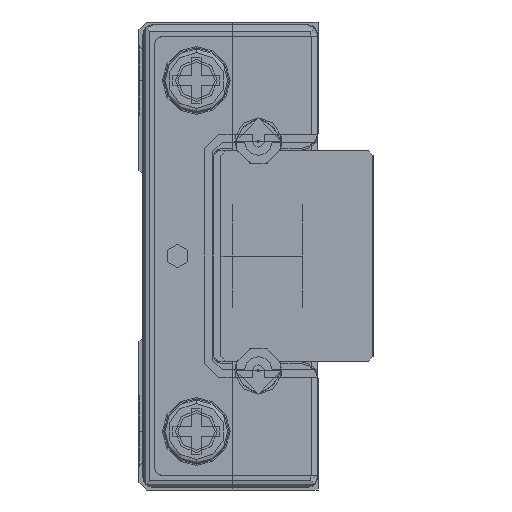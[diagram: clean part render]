
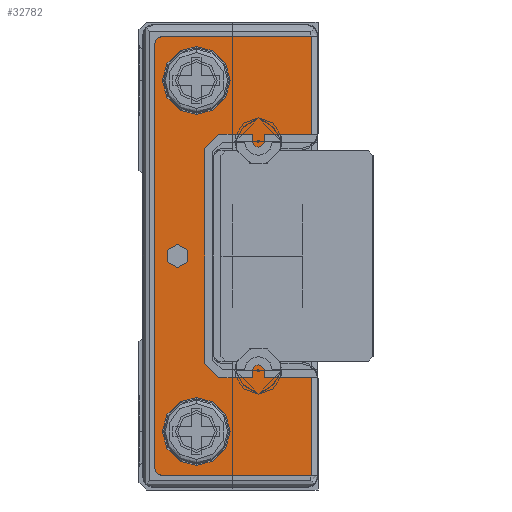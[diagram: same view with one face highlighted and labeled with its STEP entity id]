
A CAD part, left-side view. The second image highlights one B-rep face of the part: STEP entity #32782.
In plain terms, the highlighted planar face has unit normal (-1, 0, 0) as drawn and (0, 0, 1) by its records, which use the part's own axes.
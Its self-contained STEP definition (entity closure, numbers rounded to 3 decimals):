
#23403=DIRECTION('',(1.,0.,0.));
#23404=VECTOR('',#23403,4.199);
#23405=CARTESIAN_POINT('',(-9.399,-7.38,15.5));
#23406=LINE('',#23405,#23404);
#23412=DIRECTION('',(0.,-1.,0.));
#23413=VECTOR('',#23412,6.319);
#23414=CARTESIAN_POINT('',(-9.399,-1.061,15.5));
#23415=LINE('',#23414,#23413);
#23438=DIRECTION('',(0.,-1.,0.));
#23439=VECTOR('',#23438,2.035);
#23440=CARTESIAN_POINT('',(-5.2,-5.345,15.5));
#23441=LINE('',#23440,#23439);
#23442=CARTESIAN_POINT('',(-8.989,-1.061,15.5));
#23443=DIRECTION('',(0.,0.,-1.));
#23444=DIRECTION('',(-1.,0.,0.));
#23445=AXIS2_PLACEMENT_3D('',#23442,#23443,#23444);
#23447=CARTESIAN_POINT('',(8.989,-1.061,15.5));
#23448=DIRECTION('',(0.,0.,-1.));
#23449=DIRECTION('',(0.,1.,0.));
#23450=AXIS2_PLACEMENT_3D('',#23447,#23448,#23449);
#23452=DIRECTION('',(0.,1.,0.));
#23453=VECTOR('',#23452,2.035);
#23454=CARTESIAN_POINT('',(5.2,-7.38,15.5));
#23455=LINE('',#23454,#23453);
#23456=DIRECTION('',(-1.,0.,0.));
#23457=VECTOR('',#23456,0.35);
#23458=CARTESIAN_POINT('',(5.2,-5.345,15.5));
#23459=LINE('',#23458,#23457);
#23460=CARTESIAN_POINT('',(4.9,-5.1,15.5));
#23461=DIRECTION('',(0.,0.,-1.));
#23462=DIRECTION('',(-0.2,-0.98,0.));
#23463=AXIS2_PLACEMENT_3D('',#23460,#23461,#23462);
#23465=CARTESIAN_POINT('',(4.9,-5.1,15.5));
#23466=DIRECTION('',(0.,0.,-1.));
#23467=DIRECTION('',(-1.,0.,0.));
#23468=AXIS2_PLACEMENT_3D('',#23465,#23466,#23467);
#23470=DIRECTION('',(1.,0.,0.));
#23471=VECTOR('',#23470,0.35);
#23472=CARTESIAN_POINT('',(4.85,-4.855,15.5));
#23473=LINE('',#23472,#23471);
#23474=DIRECTION('',(0.,1.,0.));
#23475=VECTOR('',#23474,1.445);
#23476=CARTESIAN_POINT('',(5.2,-4.855,15.5));
#23477=LINE('',#23476,#23475);
#23478=DIRECTION('',(-0.707,0.707,0.));
#23479=VECTOR('',#23478,0.863);
#23480=CARTESIAN_POINT('',(5.2,-3.41,15.5));
#23481=LINE('',#23480,#23479);
#23482=DIRECTION('',(-1.,0.,0.));
#23483=VECTOR('',#23482,9.18);
#23484=CARTESIAN_POINT('',(4.59,-2.8,15.5));
#23485=LINE('',#23484,#23483);
#23486=DIRECTION('',(-0.707,-0.707,0.));
#23487=VECTOR('',#23486,0.863);
#23488=CARTESIAN_POINT('',(-4.59,-2.8,15.5));
#23489=LINE('',#23488,#23487);
#23490=DIRECTION('',(0.,-1.,0.));
#23491=VECTOR('',#23490,1.445);
#23492=CARTESIAN_POINT('',(-5.2,-3.41,15.5));
#23493=LINE('',#23492,#23491);
#23494=DIRECTION('',(1.,0.,0.));
#23495=VECTOR('',#23494,0.35);
#23496=CARTESIAN_POINT('',(-5.2,-4.855,15.5));
#23497=LINE('',#23496,#23495);
#23498=CARTESIAN_POINT('',(-4.9,-5.1,15.5));
#23499=DIRECTION('',(0.,0.,-1.));
#23500=DIRECTION('',(0.2,0.98,0.));
#23501=AXIS2_PLACEMENT_3D('',#23498,#23499,#23500);
#23503=CARTESIAN_POINT('',(-4.9,-5.1,15.5));
#23504=DIRECTION('',(0.,0.,-1.));
#23505=DIRECTION('',(1.,0.,0.));
#23506=AXIS2_PLACEMENT_3D('',#23503,#23504,#23505);
#23508=DIRECTION('',(-1.,0.,0.));
#23509=VECTOR('',#23508,0.35);
#23510=CARTESIAN_POINT('',(-4.85,-5.345,15.5));
#23511=LINE('',#23510,#23509);
#23512=CARTESIAN_POINT('',(7.5,-2.45,15.5));
#23513=DIRECTION('',(0.,0.,1.));
#23514=DIRECTION('',(-1.,0.,0.));
#23515=AXIS2_PLACEMENT_3D('',#23512,#23513,#23514);
#23517=CARTESIAN_POINT('',(7.5,-2.45,15.5));
#23518=DIRECTION('',(0.,0.,1.));
#23519=DIRECTION('',(1.,0.,0.));
#23520=AXIS2_PLACEMENT_3D('',#23517,#23518,#23519);
#23522=CARTESIAN_POINT('',(-7.5,-2.45,15.5));
#23523=DIRECTION('',(0.,0.,1.));
#23524=DIRECTION('',(-1.,0.,0.));
#23525=AXIS2_PLACEMENT_3D('',#23522,#23523,#23524);
#23527=CARTESIAN_POINT('',(-7.5,-2.45,15.5));
#23528=DIRECTION('',(0.,0.,1.));
#23529=DIRECTION('',(1.,0.,0.));
#23530=AXIS2_PLACEMENT_3D('',#23527,#23528,#23529);
#23532=CARTESIAN_POINT('',(0.,-1.65,15.5));
#23533=DIRECTION('',(0.,0.,1.));
#23534=DIRECTION('',(-1.,0.,0.));
#23535=AXIS2_PLACEMENT_3D('',#23532,#23533,#23534);
#23537=CARTESIAN_POINT('',(0.,-1.65,15.5));
#23538=DIRECTION('',(0.,0.,1.));
#23539=DIRECTION('',(1.,0.,0.));
#23540=AXIS2_PLACEMENT_3D('',#23537,#23538,#23539);
#23542=DIRECTION('',(-1.,0.,0.));
#23543=VECTOR('',#23542,17.978);
#23544=CARTESIAN_POINT('',(8.989,-0.651,15.5));
#23545=LINE('',#23544,#23543);
#23583=DIRECTION('',(0.,1.,0.));
#23584=VECTOR('',#23583,6.319);
#23585=CARTESIAN_POINT('',(9.399,-7.38,15.5));
#23586=LINE('',#23585,#23584);
#23591=DIRECTION('',(1.,0.,0.));
#23592=VECTOR('',#23591,4.199);
#23593=CARTESIAN_POINT('',(5.2,-7.38,15.5));
#23594=LINE('',#23593,#23592);
#29772=CARTESIAN_POINT('',(-9.399,-1.061,15.5));
#29773=CARTESIAN_POINT('',(-8.989,-0.651,15.5));
#29774=VERTEX_POINT('',#29772);
#29775=VERTEX_POINT('',#29773);
#29776=CARTESIAN_POINT('',(-5.2,-5.345,15.5));
#29777=CARTESIAN_POINT('',(-5.2,-7.38,15.5));
#29778=VERTEX_POINT('',#29776);
#29779=VERTEX_POINT('',#29777);
#29780=CARTESIAN_POINT('',(-9.399,-7.38,15.5));
#29781=VERTEX_POINT('',#29780);
#29782=CARTESIAN_POINT('',(8.989,-0.651,15.5));
#29783=VERTEX_POINT('',#29782);
#29784=CARTESIAN_POINT('',(9.399,-1.061,15.5));
#29785=VERTEX_POINT('',#29784);
#29786=CARTESIAN_POINT('',(9.399,-7.38,15.5));
#29787=VERTEX_POINT('',#29786);
#29788=CARTESIAN_POINT('',(5.2,-7.38,15.5));
#29789=VERTEX_POINT('',#29788);
#29790=CARTESIAN_POINT('',(5.2,-5.345,15.5));
#29791=VERTEX_POINT('',#29790);
#29792=CARTESIAN_POINT('',(4.85,-5.345,15.5));
#29793=VERTEX_POINT('',#29792);
#29794=CARTESIAN_POINT('',(4.65,-5.1,15.5));
#29795=VERTEX_POINT('',#29794);
#29796=CARTESIAN_POINT('',(4.85,-4.855,15.5));
#29797=VERTEX_POINT('',#29796);
#29798=CARTESIAN_POINT('',(5.2,-4.855,15.5));
#29799=VERTEX_POINT('',#29798);
#29800=CARTESIAN_POINT('',(5.2,-3.41,15.5));
#29801=VERTEX_POINT('',#29800);
#29802=CARTESIAN_POINT('',(4.59,-2.8,15.5));
#29803=VERTEX_POINT('',#29802);
#29804=CARTESIAN_POINT('',(-4.59,-2.8,15.5));
#29805=VERTEX_POINT('',#29804);
#29806=CARTESIAN_POINT('',(-5.2,-3.41,15.5));
#29807=VERTEX_POINT('',#29806);
#29808=CARTESIAN_POINT('',(-5.2,-4.855,15.5));
#29809=VERTEX_POINT('',#29808);
#29810=CARTESIAN_POINT('',(-4.85,-4.855,15.5));
#29811=VERTEX_POINT('',#29810);
#29812=CARTESIAN_POINT('',(-4.65,-5.1,15.5));
#29813=CARTESIAN_POINT('',(-4.85,-5.345,15.5));
#29814=VERTEX_POINT('',#29812);
#29815=VERTEX_POINT('',#29813);
#29816=CARTESIAN_POINT('',(6.05,-2.45,15.5));
#29817=CARTESIAN_POINT('',(8.95,-2.45,15.5));
#29818=VERTEX_POINT('',#29816);
#29819=VERTEX_POINT('',#29817);
#29820=CARTESIAN_POINT('',(-8.95,-2.45,15.5));
#29821=CARTESIAN_POINT('',(-6.05,-2.45,15.5));
#29822=VERTEX_POINT('',#29820);
#29823=VERTEX_POINT('',#29821);
#29824=CARTESIAN_POINT('',(-0.5,-1.65,15.5));
#29825=CARTESIAN_POINT('',(0.5,-1.65,15.5));
#29826=VERTEX_POINT('',#29824);
#29827=VERTEX_POINT('',#29825);
#32717=CARTESIAN_POINT('',(-8.989,-1.061,15.5));
#32718=DIRECTION('',(0.,0.,1.));
#32719=DIRECTION('',(1.,0.,0.));
#32720=AXIS2_PLACEMENT_3D('',#32717,#32718,#32719);
#32721=PLANE('',#32720);
#32722=ORIENTED_EDGE('',*,*,#32662,.T.);
#32723=ORIENTED_EDGE('',*,*,#32679,.F.);
#32724=ORIENTED_EDGE('',*,*,#32695,.F.);
#32725=ORIENTED_EDGE('',*,*,#32705,.T.);
#32727=ORIENTED_EDGE('',*,*,#32726,.F.);
#32729=ORIENTED_EDGE('',*,*,#32728,.T.);
#32731=ORIENTED_EDGE('',*,*,#32730,.F.);
#32733=ORIENTED_EDGE('',*,*,#32732,.F.);
#32735=ORIENTED_EDGE('',*,*,#32734,.T.);
#32737=ORIENTED_EDGE('',*,*,#32736,.T.);
#32739=ORIENTED_EDGE('',*,*,#32738,.T.);
#32741=ORIENTED_EDGE('',*,*,#32740,.T.);
#32743=ORIENTED_EDGE('',*,*,#32742,.T.);
#32745=ORIENTED_EDGE('',*,*,#32744,.T.);
#32747=ORIENTED_EDGE('',*,*,#32746,.T.);
#32749=ORIENTED_EDGE('',*,*,#32748,.T.);
#32751=ORIENTED_EDGE('',*,*,#32750,.T.);
#32753=ORIENTED_EDGE('',*,*,#32752,.T.);
#32755=ORIENTED_EDGE('',*,*,#32754,.T.);
#32757=ORIENTED_EDGE('',*,*,#32756,.T.);
#32759=ORIENTED_EDGE('',*,*,#32758,.T.);
#32761=ORIENTED_EDGE('',*,*,#32760,.T.);
#32762=EDGE_LOOP('',(#32722,#32723,#32724,#32725,#32727,#32729,#32731,#32733,
#32735,#32737,#32739,#32741,#32743,#32745,#32747,#32749,#32751,#32753,#32755,
#32757,#32759,#32761));
#32763=FACE_OUTER_BOUND('',#32762,.F.);
#32765=ORIENTED_EDGE('',*,*,#32764,.T.);
#32767=ORIENTED_EDGE('',*,*,#32766,.T.);
#32768=EDGE_LOOP('',(#32765,#32767));
#32769=FACE_BOUND('',#32768,.F.);
#32771=ORIENTED_EDGE('',*,*,#32770,.T.);
#32773=ORIENTED_EDGE('',*,*,#32772,.T.);
#32774=EDGE_LOOP('',(#32771,#32773));
#32775=FACE_BOUND('',#32774,.F.);
#32777=ORIENTED_EDGE('',*,*,#32776,.T.);
#32779=ORIENTED_EDGE('',*,*,#32778,.T.);
#32780=EDGE_LOOP('',(#32777,#32779));
#32781=FACE_BOUND('',#32780,.F.);
#32782=ADVANCED_FACE('',(#32763,#32769,#32775,#32781),#32721,.T.);
#23446=CIRCLE('',#23445,0.41);
#23451=CIRCLE('',#23450,0.41);
#23464=CIRCLE('',#23463,0.25);
#23469=CIRCLE('',#23468,0.25);
#23502=CIRCLE('',#23501,0.25);
#23507=CIRCLE('',#23506,0.25);
#23516=CIRCLE('',#23515,1.45);
#23521=CIRCLE('',#23520,1.45);
#23526=CIRCLE('',#23525,1.45);
#23531=CIRCLE('',#23530,1.45);
#23536=CIRCLE('',#23535,0.5);
#23541=CIRCLE('',#23540,0.5);
#32662=EDGE_CURVE('',#29778,#29779,#23441,.T.);
#32679=EDGE_CURVE('',#29781,#29779,#23406,.T.);
#32695=EDGE_CURVE('',#29774,#29781,#23415,.T.);
#32705=EDGE_CURVE('',#29774,#29775,#23446,.T.);
#32726=EDGE_CURVE('',#29783,#29775,#23545,.T.);
#32728=EDGE_CURVE('',#29783,#29785,#23451,.T.);
#32730=EDGE_CURVE('',#29787,#29785,#23586,.T.);
#32732=EDGE_CURVE('',#29789,#29787,#23594,.T.);
#32734=EDGE_CURVE('',#29789,#29791,#23455,.T.);
#32736=EDGE_CURVE('',#29791,#29793,#23459,.T.);
#32738=EDGE_CURVE('',#29793,#29795,#23464,.T.);
#32740=EDGE_CURVE('',#29795,#29797,#23469,.T.);
#32742=EDGE_CURVE('',#29797,#29799,#23473,.T.);
#32744=EDGE_CURVE('',#29799,#29801,#23477,.T.);
#32746=EDGE_CURVE('',#29801,#29803,#23481,.T.);
#32748=EDGE_CURVE('',#29803,#29805,#23485,.T.);
#32750=EDGE_CURVE('',#29805,#29807,#23489,.T.);
#32752=EDGE_CURVE('',#29807,#29809,#23493,.T.);
#32754=EDGE_CURVE('',#29809,#29811,#23497,.T.);
#32756=EDGE_CURVE('',#29811,#29814,#23502,.T.);
#32758=EDGE_CURVE('',#29814,#29815,#23507,.T.);
#32760=EDGE_CURVE('',#29815,#29778,#23511,.T.);
#32764=EDGE_CURVE('',#29818,#29819,#23516,.T.);
#32766=EDGE_CURVE('',#29819,#29818,#23521,.T.);
#32770=EDGE_CURVE('',#29822,#29823,#23526,.T.);
#32772=EDGE_CURVE('',#29823,#29822,#23531,.T.);
#32776=EDGE_CURVE('',#29826,#29827,#23536,.T.);
#32778=EDGE_CURVE('',#29827,#29826,#23541,.T.);
